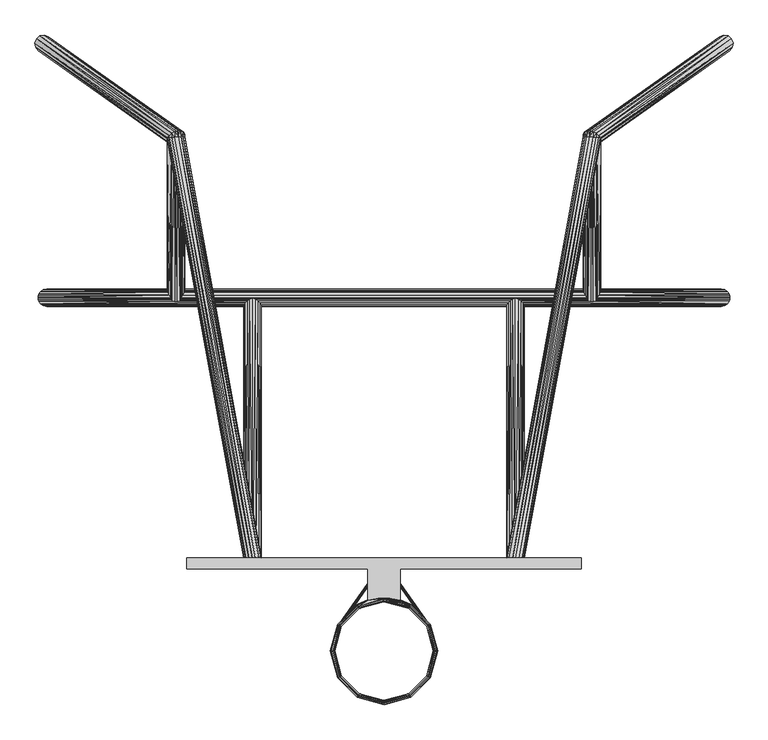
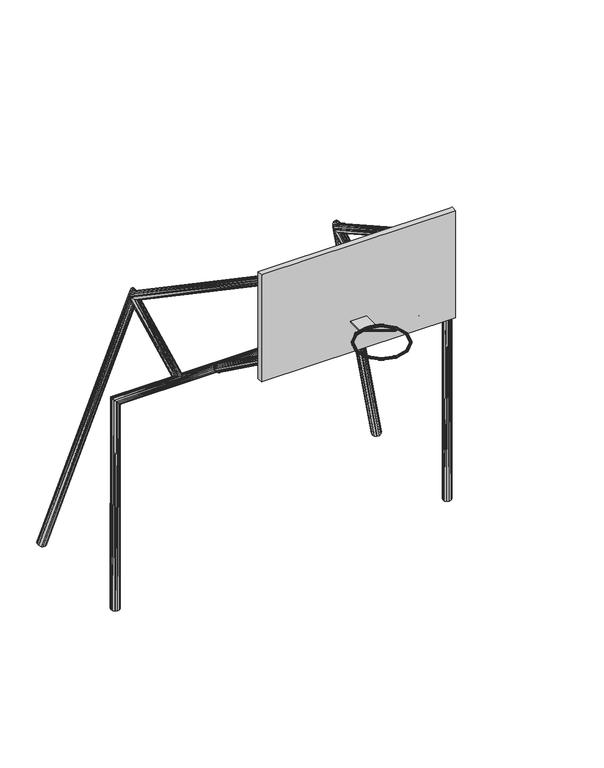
"""IFC4 building model written with IfcOpenShell, lengths in millimetres: furniture geometry, H101 ARCO Y TABLERO : H101 ARCO Y TABLERO."""

from ifc_helpers import new_model, si_unit, origin, place, context, project, spatial, triangles, source, transform, mapped, element, save


def furniture_fd72af2a(model_context):
    return source(origin(), model_context, "Body", "Tessellation", [
        triangles([(-970.47558, -8.92048, 2078.99254), (-1579.2323, -7.80288, 2079.2313), (-1576.95646, -15.30858, 2076.95546), (-968.48168, -16.002, 2076.66082), (-1568.2849, -28.28544, 2068.2839), (-632.63526, -22.43836, 2073.11498), (-931.51706, -16.002, 2076.66082), (-623.78082, -13.37056, 2077.69968), (-929.52316, -8.92048, 2078.99254), (-612.68864, -6.0706, 2079.5361), (-925.9951, -1.76276, 2079.96028), (-599.9988, -3.03022, 2079.88408), (599.9988, -3.03022, 2079.88408), (925.9951, -1.76276, 2079.96028), (612.68864, -6.0706, 2079.5361), (929.52316, -8.92048, 2078.99254), (-974.00364, -1.76276, 2079.96028), (-1579.99938, 0.0, 2080.00092), (-981.837, 11.95324, 2078.17212), (-1579.2323, 7.80288, 2079.2313), (-989.72624, 30.62986, 2065.72612), (-989.8761, 35.08756, 2059.20848), (-1555.30804, 36.95446, 2055.30704), (-1568.2849, 28.28544, 2068.2839), (-988.43338, 38.19398, 2051.8882), (-985.55302, 39.74084, 2044.55014), (-1539.99946, 39.99992, 2040.001), (-964.58532, 35.2425, 2021.08054), (-1511.71656, 28.28544, 2011.71556), (-1524.69342, 36.95446, 2024.69242), (-957.54444, 33.27654, 2017.80394), (-950.00064, 32.41548, 2016.56442), (1511.71656, 28.28544, 2011.71556), (950.00064, 32.41548, 2016.56442), (-942.45684, 33.27654, 2017.80394), (942.45684, 33.27654, 2017.80394), (-935.41342, 35.2425, 2021.08054), (935.41342, 35.2425, 2021.08054), (-923.52622, 38.99916, 2031.11354), (923.52622, 38.99916, 2031.11354), (-914.44572, 39.74084, 2044.55014), (914.44572, 39.74084, 2044.55014), (-911.56536, 38.19398, 2051.8882), (911.56536, 38.19398, 2051.8882), (-910.12518, 35.08756, 2059.20848), (910.12518, 35.08756, 2059.20848), (-910.27504, 30.62986, 2065.72612), (910.27504, 30.62986, 2065.72612), (-911.83714, 25.12568, 2071.12362), (911.83714, 25.12568, 2071.12362), (-918.16174, 11.95324, 2078.17212), (918.16174, 11.95324, 2078.17212), (623.78082, -13.37056, 2077.69968), (931.51706, -16.002, 2076.66082), (632.63526, -22.43836, 2073.11498), (968.48168, -16.002, 2076.66082), (1568.2849, -28.28544, 2068.2839), (1576.95646, -15.30858, 2076.95546), (1579.2323, -7.80288, 2079.2313), (970.47558, -8.92048, 2078.99254), (1579.99938, 0.0, 2080.00092), (974.00364, -1.76276, 2079.96028), (1579.2323, 7.80288, 2079.2313), (981.837, 11.95324, 2078.17212), (957.54444, 33.27654, 2017.80394), (1524.69342, 36.95446, 2024.69242), (1539.99946, 39.99992, 2040.001), (985.55302, 39.74084, 2044.55014), (988.43338, 38.19398, 2051.8882), (1555.30804, 36.95446, 2055.30704), (989.8761, 35.08756, 2059.20848), (989.72624, 30.62986, 2065.72612), (1568.2849, 28.28544, 2068.2839), (571.75146, -32.77362, 2017.06734), (-571.75146, -32.77362, 2017.06734), (-628.24868, -32.77362, 2017.06734), (-1511.71656, -28.28544, 2011.71556), (-566.93054, -38.21938, 2028.19508), (566.93054, -38.21938, 2028.19508), (-1524.69342, -36.95446, 2024.69242), (-633.0696, -38.21938, 2028.19508), (-637.70002, -39.9923, 2040.763), (-1539.99946, -39.99992, 2040.001), (-639.9657, -37.65296, 2053.49602), (-1555.30804, -36.95446, 2055.30704), (-638.32486, -31.1912, 2065.04032), (587.3115, -6.0706, 2079.5361), (-587.3115, -6.0706, 2079.5361), (-576.21932, -13.37056, 2077.69968), (576.21932, -13.37056, 2077.69968), (-567.36488, -22.43836, 2073.11498), (567.36488, -22.43836, 2073.11498), (561.67528, -31.1912, 2065.04032), (-561.67528, -31.1912, 2065.04032), (-560.03444, -37.65296, 2053.49602), (560.03444, -37.65296, 2053.49602), (-562.30012, -39.9923, 2040.763), (562.30012, -39.9923, 2040.763), (628.24868, -32.77362, 2017.06734), (1511.71656, -28.28544, 2011.71556), (637.70002, -39.9923, 2040.763), (1524.69342, -36.95446, 2024.69242), (1539.99946, -39.99992, 2040.001), (633.0696, -38.21938, 2028.19508), (639.9657, -37.65296, 2053.49602), (1555.30804, -36.95446, 2055.30704), (638.32486, -31.1912, 2065.04032), (1503.045, 15.30858, 2003.044), (-1503.045, 15.30858, 2003.044), (1500.76916, 7.80288, 2000.76816), (-1500.76916, 7.80288, 2000.76816), (-1499.99954, 0.0, 2000.00108), (1499.99954, 0.0, 2000.00108), (1500.76916, -7.80288, 2000.76816), (-1500.76916, -7.80288, 2000.76816), (1503.045, -15.30858, 2003.044), (-1503.045, -15.30858, 2003.044), (1559.99942, -34.64052, 0.0), (1539.99946, -39.99992, 0.0), (1519.9995, -34.64052, 0.0), (1574.63998, -19.99996, 0.0), (1579.99938, 0.0, 0.0), (1574.63998, 19.99996, 0.0), (1576.95646, 15.30858, 2076.95546), (1559.99942, 34.64052, 0.0), (1539.99946, 39.99992, 0.0), (1519.9995, 34.64052, 0.0), (1505.35894, 19.99996, 0.0), (1499.99954, 0.0, 0.0), (1505.35894, -19.99996, 0.0), (-1539.99946, -39.99992, 0.0), (-1519.9995, -34.64052, 0.0), (-1559.99942, -34.64052, 0.0), (-1579.99938, 0.0, 0.0), (-1574.63998, -19.99996, 0.0), (-1576.95646, 15.30858, 2076.95546), (-1574.63998, 19.99996, 0.0), (-1559.99942, 34.64052, 0.0), (-1539.99946, 39.99992, 0.0), (-1519.9995, 34.64052, 0.0), (-1505.35894, 19.99996, 0.0), (-1499.99954, 0.0, 0.0), (-1505.35894, -19.99996, 0.0), (-943.6227, -17.81302, 2080.24222), (-956.37604, -17.81302, 2080.24222), (943.6227, -17.81302, 2080.24222), (956.37604, -17.81302, 2080.24222), (-599.9988, -1189.20006, 2939.39722), (-584.69276, -1189.20006, 2935.63802), (-615.30738, -1189.20006, 2935.63802), (-563.04434, -1189.20006, 2908.90452), (-559.99888, -1189.20006, 2889.9993), (-563.04434, -1189.20006, 2871.09662), (-571.7159, -1189.20006, 2855.07176), (-584.69276, -1189.20006, 2844.36312), (-589.66354, -38.83152, 2008.71074), (-615.30738, -1189.20006, 2844.36312), (-628.28424, -1189.20006, 2855.07176), (-610.3366, -38.83152, 2008.71074), (-636.9558, -1189.20006, 2871.09662), (-639.99872, -1189.20006, 2889.9993), (-636.9558, -1189.20006, 2908.90452), (599.9988, -1189.20006, 2939.39722), (615.30738, -1189.20006, 2935.63802), (584.69276, -1189.20006, 2935.63802), (636.9558, -1189.20006, 2908.90452), (639.99872, -1189.20006, 2889.9993), (636.9558, -1189.20006, 2871.09662), (628.28424, -1189.20006, 2855.07176), (615.30738, -1189.20006, 2844.36312), (610.3366, -38.83152, 2008.71074), (584.69276, -1189.20006, 2844.36312), (571.7159, -1189.20006, 2855.07176), (589.66354, -38.83152, 2008.71074), (563.04434, -1189.20006, 2871.09662), (559.99888, -1189.20006, 2889.9993), (563.04434, -1189.20006, 2908.90452), (-928.05758, 659.85644, 2415.99212), (-934.93336, 654.58594, 2417.37388), (-942.3781, 652.23644, 2418.6642), (-917.0162, 678.2562, 2413.17272), (-910.62048, 735.203, 2408.7328), (-911.20976, 736.43998, 2406.28678), (-917.78074, 724.6493, 2384.7044), (-929.13708, 713.9559, 2367.6229), (-943.58968, 705.94728, 2357.57466), (-951.31636, 703.34124, 2355.70268), (-958.99478, 701.81216, 2356.0532), (-966.33538, 701.41338, 2358.61098), (-976.47252, 38.99916, 2031.11354), (-973.06384, 702.16268, 2363.28204), (-983.70898, 706.95058, 2378.19184), (-989.34778, 715.46212, 2398.56518), (-989.14712, 726.43238, 2421.37946), (-972.1215, 672.10178, 2422.04748), (-957.83654, 656.53158, 2420.78764), (-980.97086, 740.92562, 2447.85896), (-969.76946, 732.13468, 2454.01338), (-969.15478, 751.31168, 2464.08956), (-981.19184, 730.5802, 2442.3243), (-955.56324, 733.67392, 2460.21098), (-954.52184, 758.86056, 2473.08878), (-940.57724, 734.98456, 2460.04842), (-946.8104, 761.1999, 2474.4172), (-926.91712, 735.88118, 2453.54602), (-932.03014, 762.5842, 2470.48274), (-939.22088, 762.4572, 2473.53836), (-916.50312, 736.23424, 2441.61818), (-915.40076, 756.34342, 2449.77666), (-925.50742, 761.57582, 2465.36464), (-988.8855, 730.8977, 2424.303), (-1594.1802, 1163.87372, -53.67528), (-989.0379, 729.40418, 2423.34288), (-989.12426, 727.91574, 2422.36752), (-1591.20078, 1143.81788, -57.87644), (-1578.66334, 1128.3696, -63.61176), (-1559.93084, 1121.66654, -69.34962), (-1540.02232, 1125.50702, -73.54824), (-1524.27178, 1138.85726, -75.08494), (-910.38934, 747.53216, 2429.06804), (-1519.88266, 1178.20186, -69.34962), (-1532.41756, 1193.65014, -63.61176), (-1551.15006, 1200.35066, -57.87644), (-1571.05858, 1196.51272, -53.67528), (-1586.80912, 1183.15994, -52.13858), (-1516.9007, 1158.14602, -73.54824), (988.8855, 730.8977, 2424.303), (989.0379, 729.40418, 2423.34288), (1594.1802, 1163.87372, -53.67528), (638.4671, -1189.20006, 3653.96526), (989.12426, 727.91574, 2422.36752), (989.14712, 726.43238, 2421.37946), (989.34778, 715.46212, 2398.56518), (983.70898, 706.95058, 2378.19184), (1591.20078, 1143.81788, -57.87644), (1578.66334, 1128.3696, -63.61176), (958.99478, 701.81216, 2356.0532), (951.31636, 703.34124, 2355.70268), (1540.02232, 1125.50702, -73.54824), (1559.93084, 1121.66654, -69.34962), (943.58968, 705.94728, 2357.57466), (929.13708, 713.9559, 2367.6229), (1524.27178, 1138.85726, -75.08494), (1532.41756, 1193.65014, -63.61176), (910.38934, 747.53216, 2429.06804), (915.40076, 756.34342, 2449.77666), (1519.88266, 1178.20186, -69.34962), (946.8104, 761.1999, 2474.4172), (1571.05858, 1196.51272, -53.67528), (1551.15006, 1200.35066, -57.87644), (939.22088, 762.4572, 2473.53836), (954.52184, 758.86056, 2473.08878), (969.15478, 751.31168, 2464.08956), (1586.80912, 1183.15994, -52.13858), (972.1215, 672.10178, 2422.04748), (957.83654, 656.53158, 2420.78764), (942.3781, 652.23644, 2418.6642), (934.93336, 654.58594, 2417.37388), (976.47252, 38.99916, 2031.11354), (964.58532, 35.2425, 2021.08054), (966.33538, 701.41338, 2358.61098), (973.06384, 702.16268, 2363.28204), (917.78074, 724.6493, 2384.7044), (911.20976, 736.43998, 2406.28678), (910.62048, 735.203, 2408.7328), (917.0162, 678.2562, 2413.17272), (928.05758, 659.85644, 2415.99212), (916.50312, 736.23424, 2441.61818), (926.91712, 735.88118, 2453.54602), (925.50742, 761.57582, 2465.36464), (932.03014, 762.5842, 2470.48274), (940.57724, 734.98456, 2460.04842), (955.56324, 733.67392, 2460.21098), (969.76946, 732.13468, 2454.01338), (981.19184, 730.5802, 2442.3243), (980.97086, 740.92562, 2447.85896), (1516.9007, 1158.14602, -73.54824), (-561.53304, -1189.20006, 3632.0349), (-569.49848, -1189.20006, 3615.1947), (-602.55912, -1189.20006, 3689.86816), (-586.83652, -1189.20006, 3689.18998), (-617.8931, -1189.20006, 3683.41402), (-630.50166, -1189.20006, 3670.80546), (-638.4671, -1189.20006, 3653.96526), (-988.22256, 729.22892, 2426.78966), (-640.57784, -1189.20006, 3635.45374), (-636.50876, -1189.20006, 3618.09284), (-626.8847, -1189.20006, 3604.52162), (-950.10732, 652.89176, 2419.81736), (-613.16362, -1189.20006, 3596.81018), (-597.44102, -1189.20006, 3596.132), (569.49848, -1189.20006, 3615.1947), (561.53304, -1189.20006, 3632.0349), (597.44102, -1189.20006, 3596.132), (613.16362, -1189.20006, 3596.81018), (950.10732, 652.89176, 2419.81736), (626.8847, -1189.20006, 3604.52162), (640.57784, -1189.20006, 3635.45374), (636.50876, -1189.20006, 3618.09284), (988.22256, 729.22892, 2426.78966), (630.50166, -1189.20006, 3670.80546), (617.8931, -1189.20006, 3683.41402), (602.55912, -1189.20006, 3689.86816), (586.83652, -1189.20006, 3689.18998), (-900.00074, -1240.00006, 2749.99958), (-75.00112, -1240.00006, 2879.99932), (-75.00112, -1240.00006, 3056.001), (-900.00074, -1240.00006, 3800.00002), (75.00112, -1240.00006, 3056.001), (900.00074, -1240.00006, 3800.00002), (900.00074, -1240.00006, 2749.99958), (75.00112, -1240.00006, 2879.99932), (-900.00074, -1189.20006, 3800.00002), (900.00074, -1189.20006, 3800.00002), (573.11544, -1189.20006, 3681.47854), (-573.11544, -1189.20006, 3681.47854), (-900.00074, -1189.20006, 2749.99958), (-628.28424, -1189.20006, 2924.92938), (-582.10704, -1189.20006, 3602.58614), (582.10704, -1189.20006, 3602.58614), (559.4223, -1189.20006, 3650.54642), (-559.4223, -1189.20006, 3650.54642), (-563.49138, -1189.20006, 3667.90732), (563.49138, -1189.20006, 3667.90732), (628.28424, -1189.20006, 2924.92938), (900.00074, -1189.20006, 2749.99958), (599.9988, -1189.20006, 2840.60138), (-599.9988, -1189.20006, 2840.60138), (571.7159, -1189.20006, 2924.92938), (-571.7159, -1189.20006, 2924.92938), (202.16114, -1502.31348, 3040.65178), (217.22334, -1539.41018, 3041.34012), (200.44156, -1501.44226, 3041.13438), (199.15886, -1499.95382, 3041.34012), (113.1697, -1418.9837, 3045.00026), (115.00104, -1415.81378, 3041.34012), (196.00418, -1501.80802, 3045.00026), (194.8561, -1502.4989, 3049.99898), (112.49914, -1420.14448, 3049.99898), (0.0, -1388.66118, 3045.00026), (0.0, -1389.99976, 3049.99898), (-112.49914, -1420.14448, 3049.99898), (-113.1697, -1418.9837, 3045.00026), (-196.00418, -1501.80802, 3045.00026), (-194.8561, -1502.4989, 3049.99898), (-226.3394, -1615.00058, 3045.00026), (-225.00082, -1615.00058, 3049.99898), (-229.99954, -1615.00058, 3041.34012), (-199.15886, -1499.95382, 3041.34012), (-199.1868, -1729.99908, 3041.34012), (-196.01688, -1728.17028, 3045.00026), (-203.51496, -1732.50098, 3039.999), (-235.0008, -1615.00058, 3039.999), (-115.00104, -1814.18484, 3041.34012), (-117.5004, -1818.51554, 3039.999), (-119.99976, -1822.84624, 3041.34012), (-207.84566, -1735.00034, 3041.34012), (0.0, -1849.99884, 3039.999), (0.0, -1855.0001, 3041.34012), (0.0, -1858.66024, 3045.00026), (-121.8311, -1826.01616, 3045.00026), (119.99976, -1822.84624, 3041.34012), (121.8311, -1826.01616, 3045.00026), (122.49912, -1827.17694, 3049.99898), (0.0, -1859.99882, 3049.99898), (212.17636, -1737.4997, 3049.99898), (211.01558, -1736.82914, 3045.00026), (211.01558, -1736.82914, 3055.00024), (121.8311, -1826.01616, 3055.00024), (245.00078, -1615.00058, 3049.99898), (243.65966, -1615.00058, 3055.00024), (239.99952, -1615.00058, 3058.66038), (207.84566, -1735.00034, 3058.66038), (211.03336, -1493.19742, 3055.00024), (207.85836, -1495.02114, 3058.66038), (121.8311, -1403.985, 3055.00024), (119.99976, -1407.15492, 3058.66038), (81.77022, -1389.35968, 3058.66038), (75.00112, -1383.86312, 3056.001), (89.70518, -1397.79502, 3059.99896), (117.5004, -1411.48308, 3059.99896), (0.0, -1379.99978, 3059.99896), (0.0, -1375.00106, 3058.66038), (0.0, -1385.00104, 3058.66038), (97.05594, -1406.48182, 3058.66038), (-117.5004, -1411.48308, 3059.99896), (-115.00104, -1415.81378, 3058.66038), (-113.1697, -1418.9837, 3055.00024), (0.0, -1388.66118, 3055.00024), (-196.01942, -1501.83596, 3055.00024), (-199.19188, -1500.0097, 3058.66038), (-226.3394, -1615.00058, 3055.00024), (-194.8561, -1727.49972, 3049.99898), (-113.1697, -1811.01492, 3045.00026), (0.0, -1845.00012, 3041.34012), (117.5004, -1818.51554, 3039.999), (207.84566, -1735.00034, 3041.34012), (243.65966, -1615.00058, 3045.00026), (212.19668, -1492.53448, 3049.99898), (122.49912, -1402.82422, 3049.99898), (239.99952, -1615.00058, 3041.34012), (207.4672, -1500.56596, 3040.1895), (208.33334, -1498.83622, 3040.64416), (235.0008, -1615.00058, 3039.999), (207.87106, -1495.044, 3041.34012), (211.03844, -1493.21012, 3045.00026), (119.99976, -1407.15492, 3041.34012), (121.8311, -1403.985, 3045.00026), (198.69658, -1496.16668, 3040.62384), (198.5518, -1498.08946, 3041.11406), (117.5004, -1411.48308, 3039.999), (199.56526, -1494.43694, 3040.17172), (-202.16368, -1502.31348, 3040.65178), (-200.44156, -1501.44226, 3041.13438), (-204.089, -1502.46588, 3040.1895), (-198.69658, -1496.16922, 3040.62638), (-173.7487, -1464.2973, 3041.34012), (-198.5518, -1498.08946, 3041.11406), (-199.56272, -1494.43948, 3040.17172), (-200.5711, -1492.5421, 3039.999), (-201.05878, -1493.14408, 3040.00154), (-117.5004, -1411.48308, 3039.999), (-202.93584, -1492.53448, 3040.20728), (-119.99976, -1407.15492, 3041.34012), (-207.87106, -1495.044, 3041.34012), (-211.03844, -1493.21012, 3045.00026), (-121.8311, -1403.985, 3045.00026), (-212.19668, -1492.53448, 3049.99898), (-122.49912, -1402.82422, 3049.99898), (-211.03082, -1493.19742, 3055.00024), (-121.8311, -1403.985, 3055.00024), (-207.85836, -1495.02114, 3058.66038), (-119.99976, -1407.15492, 3058.66038), (-203.52512, -1497.51542, 3059.99896), (-239.99952, -1615.00058, 3041.34012), (-243.65966, -1615.00058, 3045.00026), (-245.00078, -1615.00058, 3049.99898), (-243.65966, -1615.00058, 3055.00024), (-239.99952, -1615.00058, 3058.66038), (-235.0008, -1615.00058, 3059.99896), (-229.99954, -1615.00058, 3058.66038), (-208.33334, -1498.83622, 3040.64416), (-207.4672, -1500.56596, 3040.1895), (-75.00112, -1383.86312, 3056.001), (104.44226, -1414.19834, 3055.00024), (113.1697, -1418.9837, 3055.00024), (115.00104, -1415.81378, 3058.66038), (196.01942, -1501.83596, 3055.00024), (199.19188, -1500.0097, 3058.66038), (226.3394, -1615.00058, 3055.00024), (229.99954, -1615.00058, 3058.66038), (199.1868, -1729.99908, 3058.66038), (196.01688, -1728.17028, 3055.00024), (203.51496, -1732.50098, 3059.99896), (235.0008, -1615.00058, 3059.99896), (115.00104, -1814.18484, 3058.66038), (117.5004, -1818.51554, 3059.99896), (119.99976, -1822.84624, 3058.66038), (0.0, -1849.99884, 3059.99896), (0.0, -1855.0001, 3058.66038), (0.0, -1858.66024, 3055.00024), (-119.99976, -1822.84624, 3058.66038), (-121.8311, -1826.01616, 3055.00024), (-122.49912, -1827.17694, 3049.99898), (-212.17636, -1737.4997, 3049.99898), (-211.01558, -1736.82914, 3055.00024), (-211.01558, -1736.82914, 3045.00026), (-112.49914, -1809.85668, 3049.99898), (0.0, -1841.33998, 3045.00026), (115.00104, -1814.18484, 3041.34012), (203.51496, -1732.50098, 3039.999), (0.0, -1839.99886, 3049.99898), (113.1697, -1811.01492, 3045.00026), (199.1868, -1729.99908, 3041.34012), (-196.01688, -1728.17028, 3055.00024), (-113.1697, -1811.01492, 3055.00024), (0.0, -1841.33998, 3055.00024), (112.49914, -1809.85668, 3049.99898), (113.1697, -1811.01492, 3055.00024), (194.8561, -1727.49972, 3049.99898), (225.00082, -1615.00058, 3049.99898), (196.01688, -1728.17028, 3045.00026), (229.99954, -1615.00058, 3041.34012), (226.3394, -1615.00058, 3045.00026), (0.0, -1371.34092, 3045.00026), (0.0, -1375.00106, 3041.34012), (0.0, -1379.99978, 3039.999), (0.0, -1385.00104, 3041.34012), (-115.00104, -1415.81378, 3041.34012), (203.52512, -1497.51542, 3059.99896), (-207.84566, -1735.00034, 3058.66038), (-203.51496, -1732.50098, 3059.99896), (-199.1868, -1729.99908, 3058.66038), (-117.5004, -1818.51554, 3059.99896), (-115.00104, -1814.18484, 3058.66038), (0.0, -1845.00012, 3058.66038), (-25.36952, -1373.3272, 3056.001), (25.36952, -1373.3272, 3056.001), (75.00112, -1382.31118, 3053.18922), (75.00112, -1245.99954, 3049.99898), (75.00112, -1245.99954, 2879.99932), (33.9852, -1245.99954, 2932.90498), (33.52546, -1245.99954, 2930.82472), (33.51784, -1245.99954, 2934.82268), (32.1945, -1245.99954, 2936.28826), (27.87904, -1245.99954, 2937.06296), (30.2133, -1245.99954, 2937.07312), (-75.00112, -1245.99954, 3049.99898), (25.54478, -1245.99954, 2936.25778), (-27.87904, -1245.99954, 2937.06296), (-25.54478, -1245.99954, 2936.25778), (-32.1945, -1245.99954, 2936.28826), (-30.2133, -1245.99954, 2937.07312), (-75.00112, -1245.99954, 2879.99932), (-33.51784, -1245.99954, 2934.82268), (-33.9852, -1245.99954, 2932.90498), (-33.52546, -1245.99954, 2930.82472), (-30.22854, -1245.99954, 2927.42112), (-32.20466, -1245.99954, 2928.8994), (-25.56002, -1245.99954, 2926.60578), (-27.89428, -1245.99954, 2926.61594), (25.56002, -1245.99954, 2926.60578), (23.58136, -1245.99954, 2927.39064), (-23.58136, -1245.99954, 2927.39064), (-22.25548, -1245.99954, 2928.85622), (22.25548, -1245.99954, 2928.85622), (21.78812, -1245.99954, 2930.77392), (-21.78812, -1245.99954, 2930.77392), (22.2504, -1245.99954, 2932.85418), (-22.2504, -1245.99954, 2932.85418), (23.56866, -1245.99954, 2934.7795), (-23.56866, -1245.99954, 2934.7795), (32.20466, -1245.99954, 2928.8994), (30.22854, -1245.99954, 2927.42112), (27.89428, -1245.99954, 2926.61594), (25.3619, -1371.31552, 3049.99898), (75.00112, -1381.76254, 3049.99898), (-25.3619, -1371.31552, 3049.99898), (-75.00112, -1381.76254, 3049.99898), (-75.00112, -1382.31118, 3053.18922), (-198.98614, -1495.38182, 3035.97056), (-198.51878, -1494.71126, 3031.87608), (-200.65238, -1493.40062, 3035.97056), (-200.2155, -1492.77324, 3032.13262), (-202.61834, -1491.84868, 3031.87608), (-203.0857, -1492.51924, 3035.97056), (-201.28738, -1489.94114, 3028.40644), (-198.96582, -1490.98508, 3028.88142), (-203.52512, -1489.9513, 3027.1085), (-205.08722, -1492.1865, 3031.1725), (-198.53402, -1497.92944, 3035.97056), (-197.98538, -1497.14458, 3031.1725), (-199.4154, -1500.36276, 3035.97056), (-198.76008, -1499.42042, 3030.21238), (-201.3966, -1502.029, 3035.97056), (-200.62952, -1500.92918, 3029.25226), (-203.94422, -1502.48112, 3035.97056), (-203.0984, -1501.267, 3028.55122), (-206.37754, -1501.59974, 3035.97056), (-205.50124, -1500.34244, 3028.29468), (-208.04378, -1499.61854, 3035.97056), (-207.19796, -1498.40442, 3028.55122), (-200.6854, -1497.8126, 3022.26726), (-203.00442, -1496.76866, 3021.79228), (-198.44512, -1497.80244, 3023.5652), (-197.07606, -1492.6437, 3018.08388), (-195.17868, -1493.12376, 3019.77806), (-194.08648, -1492.73006, 3022.08946), (-195.11518, -1493.03232, 3019.73234), (-208.49844, -1497.07092, 3035.97056), (-207.73136, -1495.9711, 3029.25226), (-205.54442, -1492.84436, 3023.5652), (-204.78496, -1494.95002, 3022.26726), (-202.27798, -1488.16568, 3019.77806), (-201.17562, -1489.78112, 3018.08388), (-205.08468, -1491.01302, 3025.33812), (-202.2856, -1487.00236, 3022.08946), (-202.25512, -1486.96426, 3022.22662), (-201.549, -1486.68994, 3023.98684), (-207.61452, -1494.6376, 3035.97056), (-206.95666, -1493.69526, 3030.21238), (-206.58836, -1493.55556, 3041.142), (-205.63586, -1492.97136, 3035.97056), (-198.82612, -1487.5002, 3026.45572), (-197.21068, -1488.47302, 3026.79862), (-197.18782, -1492.80372, 3028.40644), (-195.74256, -1489.65412, 3026.45572), (-194.0433, -1491.92996, 3023.98684), (-196.42582, -1494.90938, 3027.1085), (-196.88556, -1496.73818, 3025.33812), (-194.06108, -1492.68942, 3022.22662), (-199.27062, -1491.42196, 3017.46412), (-202.21448, -1488.07424, 3019.73234), (-201.0664, -1489.62618, 3018.00768), (-199.14616, -1491.24162, 3017.37522), (-196.96684, -1492.48876, 3018.00768), (-205.9686, -1501.85628, 3039.999), (-194.63258, -1490.8657, 3025.46766), (-200.34758, -1486.87536, 3025.4702), (203.0857, -1492.51924, 3035.97056), (202.61834, -1491.84868, 3031.87608), (200.2155, -1492.77324, 3032.13262), (200.65238, -1493.40062, 3035.97056), (198.51878, -1494.71126, 3031.87608), (198.98614, -1495.38182, 3035.97056), (198.96582, -1490.98508, 3028.88142), (197.18782, -1492.80372, 3028.40644), (196.42582, -1494.90938, 3027.1085), (197.98538, -1497.14458, 3031.1725), (205.63586, -1492.97136, 3035.97056), (205.08722, -1492.1865, 3031.1725), (207.61452, -1494.6376, 3035.97056), (206.58836, -1493.55556, 3041.142), (206.95666, -1493.69526, 3030.21238), (208.49844, -1497.07092, 3035.97056), (208.04378, -1499.61854, 3035.97056), (207.19796, -1498.40442, 3028.55122), (207.73136, -1495.9711, 3029.25226), (205.50124, -1500.34244, 3028.29468), (206.37754, -1501.59974, 3035.97056), (203.94422, -1502.48112, 3035.97056), (203.0984, -1501.267, 3028.55122), (200.6854, -1497.8126, 3022.26726), (203.00442, -1496.76866, 3021.79228), (199.27062, -1491.42196, 3017.46412), (197.07606, -1492.6437, 3018.08388), (198.44512, -1497.80244, 3023.5652), (195.17868, -1493.12376, 3019.77806), (196.88556, -1496.73818, 3025.33812), (194.08648, -1492.73006, 3022.08946), (194.06108, -1492.68942, 3022.22662), (194.0433, -1491.92996, 3023.98684), (201.3966, -1502.029, 3035.97056), (200.62952, -1500.92918, 3029.25226), (198.76008, -1499.42042, 3030.21238), (199.4154, -1500.36276, 3035.97056), (198.53402, -1497.92944, 3035.97056), (202.25512, -1486.96426, 3022.22662), (205.08468, -1491.01302, 3025.33812), (202.2856, -1487.00236, 3022.08946), (205.54442, -1492.84436, 3023.5652), (202.27798, -1488.16568, 3019.77806), (204.78496, -1494.95002, 3022.26726), (201.17562, -1489.78112, 3018.08388), (201.549, -1486.68994, 3023.98684), (203.52512, -1489.9513, 3027.1085), (201.28738, -1489.94114, 3028.40644), (198.82612, -1487.5002, 3026.45572), (197.21068, -1488.47302, 3026.79862), (195.74256, -1489.65412, 3026.45572), (195.11518, -1493.03232, 3019.73234), (196.96684, -1492.48876, 3018.00768), (199.14616, -1491.24162, 3017.37522), (201.0664, -1489.62618, 3018.00768), (202.21448, -1488.07424, 3019.73234), (205.9686, -1501.85628, 3039.999), (204.089, -1502.46588, 3040.1895), (201.06132, -1493.14408, 3040.00154), (202.94092, -1492.53448, 3040.20728), (194.63258, -1490.8657, 3025.46766), (200.34758, -1486.87536, 3025.4702), (-988.16414, 25.12568, 2071.12362), (988.16414, 25.12568, 2071.12362), (-910.80336, 735.99802, 2425.94638), (910.80336, 735.99802, 2425.94638), (-144.06626, -1440.42892, 3045.00026), (208.48066, -1496.91344, 3041.12168), (204.86624, -1492.68688, 3040.6721), (-204.86624, -1492.68434, 3040.6721), (-208.48066, -1496.9109, 3041.12168), (223.17456, -1577.27904, 3045.00026)], [[1, 2, 3], [1, 3, 4], [4, 3, 5], [6, 4, 5], [6, 7, 4], [6, 8, 7], [9, 8, 10], [7, 8, 9], [11, 10, 12], [9, 10, 11], [12, 13, 11], [14, 11, 13], [13, 15, 14], [14, 15, 16], [2, 1, 17], [2, 17, 18], [18, 17, 19], [18, 19, 20], [21, 22, 23], [21, 23, 24], [25, 26, 27], [25, 27, 23], [28, 29, 30], [29, 28, 31], [29, 32, 33], [34, 33, 32], [32, 35, 34], [36, 34, 35], [37, 38, 35], [36, 35, 38], [39, 40, 37], [38, 37, 40], [39, 41, 42], [40, 39, 42], [42, 41, 43], [42, 43, 44], [44, 43, 45], [44, 45, 46], [45, 47, 48], [46, 45, 48], [47, 49, 50], [48, 47, 50], [50, 49, 51], [50, 51, 52], [51, 11, 14], [52, 51, 14], [15, 53, 16], [16, 53, 54], [54, 53, 55], [55, 56, 54], [56, 57, 58], [57, 56, 55], [58, 59, 60], [56, 58, 60], [59, 61, 62], [60, 59, 62], [61, 63, 64], [62, 61, 64], [34, 65, 33], [66, 33, 65], [67, 68, 69], [70, 67, 69], [70, 71, 72], [73, 70, 72], [74, 75, 76], [77, 74, 76], [75, 74, 78], [74, 79, 78], [80, 81, 82], [83, 80, 82], [83, 82, 84], [85, 83, 84], [85, 84, 86], [5, 85, 86], [87, 13, 88], [12, 88, 13], [88, 89, 87], [90, 87, 89], [91, 92, 89], [90, 89, 92], [92, 91, 93], [91, 94, 93], [94, 95, 96], [93, 94, 96], [95, 97, 98], [96, 95, 98], [97, 78, 79], [98, 97, 79], [99, 74, 100], [77, 100, 74], [101, 102, 103], [104, 102, 101], [105, 103, 106], [101, 103, 105], [107, 106, 57], [105, 106, 107], [33, 108, 109], [29, 33, 109], [108, 110, 111], [109, 108, 111], [112, 111, 110], [113, 112, 110], [113, 114, 115], [112, 113, 115], [114, 116, 117], [115, 114, 117], [77, 117, 116], [100, 77, 116], [106, 103, 118], [118, 103, 119], [103, 102, 119], [119, 102, 120], [58, 121, 122], [58, 122, 59], [122, 123, 124], [63, 122, 124], [125, 126, 67], [125, 67, 70], [126, 127, 66], [126, 66, 67], [128, 129, 110], [108, 128, 110], [114, 129, 130], [114, 130, 116], [80, 131, 132], [80, 83, 131], [133, 83, 85], [131, 83, 133], [3, 2, 134], [135, 3, 134], [134, 20, 136], [134, 136, 137], [23, 27, 138], [138, 27, 139], [27, 30, 139], [139, 30, 140], [141, 109, 111], [141, 111, 142], [115, 117, 143], [142, 115, 143], [118, 119, 120], [118, 120, 127], [127, 120, 130], [127, 130, 129], [127, 126, 125], [127, 125, 118], [125, 122, 121], [118, 125, 121], [132, 131, 133], [132, 133, 138], [138, 133, 135], [138, 135, 134], [138, 139, 140], [138, 140, 132], [140, 142, 143], [132, 140, 143], [144, 145, 7], [4, 7, 145], [146, 54, 147], [56, 147, 54], [88, 12, 148], [149, 88, 148], [148, 12, 10], [148, 10, 150], [94, 151, 152], [94, 152, 95], [95, 152, 153], [95, 153, 97], [75, 154, 155], [75, 155, 156], [157, 158, 76], [159, 157, 76], [82, 160, 84], [160, 161, 84], [161, 162, 86], [84, 161, 86], [15, 13, 163], [164, 15, 163], [163, 13, 87], [163, 87, 165], [107, 166, 167], [107, 167, 105], [105, 167, 168], [105, 168, 101], [99, 169, 170], [99, 170, 171], [172, 173, 74], [174, 172, 74], [98, 175, 96], [175, 176, 96], [176, 177, 93], [96, 176, 93], [7, 9, 178], [11, 178, 9], [7, 179, 180], [7, 180, 144], [11, 51, 178], [181, 178, 51], [181, 49, 47], [181, 47, 182], [45, 43, 183], [182, 45, 183], [43, 41, 184], [184, 183, 43], [185, 37, 186], [37, 35, 186], [35, 32, 187], [186, 35, 187], [187, 32, 31], [187, 31, 188], [188, 31, 28], [188, 28, 189], [189, 28, 190], [189, 190, 191], [192, 26, 25], [25, 193, 192], [193, 22, 21], [194, 193, 21], [4, 195, 1], [17, 1, 195], [4, 145, 196], [4, 196, 195], [197, 198, 199], [197, 200, 198], [199, 201, 202], [199, 198, 201], [202, 201, 203], [202, 203, 204], [203, 205, 206], [207, 203, 206], [205, 208, 209], [210, 205, 209], [211, 212, 213], [212, 214, 213], [212, 215, 194], [214, 212, 194], [215, 216, 192], [192, 193, 215], [188, 217, 218], [188, 218, 187], [186, 218, 219], [186, 219, 185], [220, 221, 222], [209, 220, 222], [223, 224, 204], [207, 223, 204], [202, 224, 199], [224, 225, 199], [223, 221, 218], [223, 222, 221], [226, 219, 221], [218, 221, 219], [223, 218, 217], [223, 217, 224], [224, 216, 215], [224, 217, 216], [212, 225, 215], [224, 215, 225], [227, 228, 229], [227, 230, 228], [229, 228, 231], [228, 230, 231], [229, 231, 232], [231, 230, 232], [233, 234, 235], [235, 234, 236], [237, 238, 239], [240, 237, 239], [241, 242, 243], [239, 241, 243], [244, 245, 246], [247, 245, 244], [248, 249, 250], [251, 248, 250], [249, 252, 253], [249, 253, 254], [56, 60, 255], [62, 255, 60], [255, 256, 56], [56, 256, 147], [257, 258, 54], [146, 257, 54], [72, 233, 232], [72, 71, 233], [69, 68, 234], [69, 234, 233], [259, 260, 261], [262, 259, 261], [260, 65, 237], [261, 260, 237], [65, 34, 238], [237, 65, 238], [238, 34, 36], [238, 36, 241], [241, 36, 38], [241, 38, 242], [263, 42, 44], [264, 263, 44], [264, 44, 46], [264, 46, 265], [48, 266, 265], [48, 50, 266], [52, 267, 266], [267, 52, 14], [267, 16, 54], [14, 16, 267], [246, 268, 269], [246, 269, 270], [271, 269, 272], [271, 272, 251], [272, 273, 252], [248, 272, 252], [252, 273, 253], [273, 274, 253], [274, 275, 276], [253, 274, 276], [250, 249, 240], [250, 240, 244], [244, 239, 243], [244, 240, 239], [249, 254, 229], [240, 249, 229], [236, 240, 235], [229, 235, 240], [243, 277, 244], [247, 244, 277], [278, 279, 181], [278, 181, 182], [203, 201, 280], [281, 203, 280], [201, 198, 282], [280, 201, 282], [198, 200, 283], [282, 198, 283], [283, 200, 284], [200, 285, 284], [284, 285, 213], [285, 211, 213], [284, 214, 194], [284, 213, 214], [194, 195, 286], [286, 195, 287], [288, 196, 289], [288, 289, 290], [180, 179, 291], [290, 180, 291], [266, 292, 293], [265, 266, 293], [294, 258, 257], [294, 257, 295], [296, 256, 297], [295, 296, 297], [298, 255, 232], [299, 255, 298], [230, 300, 275], [230, 275, 301], [301, 275, 274], [301, 274, 302], [302, 274, 273], [302, 273, 303], [303, 273, 272], [303, 272, 304], [305, 306, 307], [305, 307, 308], [308, 307, 309], [308, 309, 310], [310, 309, 311], [309, 312, 311], [311, 312, 305], [306, 305, 312], [281, 280, 313], [282, 313, 280], [314, 304, 313], [281, 313, 304], [304, 315, 281], [316, 281, 315], [313, 283, 284], [313, 282, 283], [313, 286, 287], [284, 286, 313], [313, 287, 288], [313, 288, 317], [290, 148, 150], [290, 150, 288], [288, 150, 318], [288, 318, 317], [318, 162, 317], [317, 162, 161], [148, 290, 291], [148, 291, 149], [149, 291, 319], [149, 319, 165], [165, 292, 320], [165, 319, 292], [165, 320, 294], [165, 294, 163], [292, 319, 279], [292, 279, 293], [293, 279, 278], [293, 278, 321], [321, 278, 322], [321, 322, 323], [323, 316, 324], [321, 323, 324], [163, 294, 295], [163, 295, 164], [164, 295, 297], [325, 164, 297], [297, 314, 326], [325, 297, 326], [166, 325, 326], [326, 167, 166], [326, 169, 168], [167, 326, 168], [327, 170, 326], [169, 326, 170], [317, 328, 326], [327, 326, 328], [317, 157, 328], [317, 158, 157], [317, 161, 160], [158, 317, 160], [298, 314, 299], [297, 299, 314], [298, 230, 314], [230, 301, 314], [314, 301, 302], [314, 302, 303], [165, 329, 149], [330, 149, 329], [330, 329, 177], [330, 177, 151], [151, 177, 176], [151, 176, 152], [152, 176, 175], [152, 175, 153], [153, 175, 173], [153, 173, 154], [173, 172, 154], [155, 154, 172], [172, 327, 155], [328, 155, 327], [308, 310, 314], [308, 314, 313], [305, 326, 311], [305, 317, 326], [313, 317, 305], [313, 305, 308], [310, 311, 326], [310, 326, 314], [159, 75, 156], [76, 75, 159], [331, 332, 333], [334, 333, 332], [334, 335, 336], [334, 337, 335], [337, 338, 339], [335, 337, 339], [335, 339, 340], [339, 341, 340], [340, 342, 343], [340, 341, 342], [344, 345, 346], [345, 347, 346], [344, 346, 348], [344, 348, 349], [348, 346, 350], [346, 351, 350], [350, 352, 353], [348, 350, 353], [352, 350, 354], [352, 354, 355], [352, 355, 356], [352, 356, 357], [356, 358, 359], [356, 355, 358], [356, 359, 360], [356, 360, 361], [360, 359, 362], [360, 362, 363], [360, 363, 364], [360, 364, 365], [364, 363, 366], [363, 367, 366], [366, 368, 369], [364, 366, 369], [368, 370, 371], [368, 366, 370], [368, 371, 372], [368, 372, 373], [372, 374, 375], [372, 371, 374], [375, 376, 377], [375, 374, 376], [377, 376, 378], [379, 378, 376], [378, 380, 377], [377, 380, 381], [378, 382, 380], [378, 383, 382], [380, 382, 384], [385, 380, 384], [384, 386, 387], [384, 382, 386], [384, 387, 388], [384, 388, 389], [388, 387, 390], [387, 391, 390], [388, 390, 345], [388, 345, 342], [345, 390, 347], [390, 392, 347], [346, 393, 351], [346, 347, 393], [350, 351, 354], [351, 394, 354], [355, 395, 358], [355, 354, 395], [359, 358, 362], [358, 396, 362], [363, 362, 397], [363, 397, 367], [366, 367, 370], [367, 398, 370], [371, 399, 374], [371, 370, 399], [374, 400, 376], [374, 399, 400], [401, 402, 403], [404, 402, 401], [405, 406, 398], [401, 405, 398], [401, 367, 397], [401, 398, 367], [407, 408, 406], [405, 407, 406], [406, 399, 370], [398, 406, 370], [409, 410, 411], [412, 409, 411], [411, 410, 336], [336, 410, 334], [353, 413, 414], [353, 415, 413], [353, 414, 348], [414, 349, 348], [416, 417, 418], [349, 418, 417], [417, 419, 420], [419, 421, 420], [422, 420, 423], [420, 421, 423], [424, 425, 426], [424, 426, 427], [427, 426, 428], [427, 428, 429], [429, 428, 430], [429, 430, 431], [431, 430, 432], [431, 432, 433], [433, 432, 434], [433, 434, 386], [386, 434, 391], [386, 391, 387], [425, 435, 436], [425, 436, 426], [426, 436, 437], [426, 437, 428], [428, 437, 438], [428, 438, 430], [430, 438, 439], [430, 439, 432], [432, 439, 440], [432, 440, 434], [434, 440, 441], [434, 441, 391], [391, 441, 392], [391, 392, 390], [442, 443, 435], [435, 443, 353], [408, 400, 399], [408, 399, 406], [444, 433, 386], [383, 444, 386], [341, 389, 342], [389, 388, 342], [445, 446, 447], [445, 447, 385], [447, 448, 449], [447, 446, 448], [449, 450, 451], [449, 448, 450], [451, 450, 452], [450, 453, 452], [452, 454, 455], [451, 452, 455], [454, 452, 456], [454, 456, 457], [454, 457, 458], [454, 458, 373], [458, 459, 460], [458, 457, 459], [458, 460, 461], [458, 461, 369], [461, 462, 463], [461, 460, 462], [461, 463, 464], [461, 464, 365], [464, 463, 465], [463, 466, 465], [465, 467, 361], [464, 465, 361], [467, 437, 436], [467, 465, 437], [467, 436, 435], [467, 435, 357], [393, 468, 394], [351, 393, 394], [394, 469, 395], [354, 394, 395], [395, 470, 396], [358, 395, 396], [396, 471, 397], [362, 396, 397], [394, 468, 469], [468, 472, 469], [395, 469, 473], [395, 473, 470], [470, 474, 471], [396, 470, 471], [397, 471, 404], [397, 404, 401], [347, 392, 393], [392, 475, 393], [393, 476, 468], [393, 475, 476], [468, 477, 472], [468, 476, 477], [472, 477, 478], [477, 479, 478], [478, 479, 480], [479, 453, 480], [480, 450, 481], [480, 453, 450], [481, 448, 338], [481, 450, 448], [469, 478, 473], [469, 472, 478], [470, 482, 474], [470, 473, 482], [471, 474, 404], [474, 483, 404], [473, 478, 480], [473, 480, 482], [474, 482, 484], [474, 484, 483], [482, 480, 484], [480, 481, 484], [446, 338, 448], [446, 339, 338], [424, 485, 486], [424, 427, 485], [486, 485, 407], [485, 408, 407], [422, 486, 487], [422, 424, 486], [487, 486, 411], [486, 407, 411], [487, 488, 422], [488, 489, 422], [488, 340, 343], [488, 343, 489], [488, 411, 336], [488, 487, 411], [340, 488, 335], [488, 336, 335], [451, 490, 449], [451, 455, 490], [455, 372, 375], [490, 455, 375], [490, 377, 381], [490, 375, 377], [372, 455, 373], [455, 454, 373], [368, 373, 369], [373, 458, 369], [364, 461, 365], [364, 369, 461], [360, 464, 361], [360, 365, 464], [356, 361, 357], [361, 467, 357], [352, 357, 353], [357, 435, 353], [449, 381, 447], [449, 490, 381], [381, 380, 385], [447, 381, 385], [437, 465, 466], [437, 466, 438], [466, 491, 439], [438, 466, 439], [491, 492, 440], [439, 491, 440], [440, 492, 493], [440, 493, 441], [493, 475, 392], [441, 493, 392], [463, 462, 491], [466, 463, 491], [462, 494, 492], [491, 462, 492], [492, 494, 495], [492, 495, 493], [495, 476, 475], [493, 495, 475], [462, 460, 459], [462, 459, 494], [494, 459, 496], [494, 496, 495], [496, 477, 476], [495, 496, 476], [457, 456, 496], [459, 457, 496], [496, 456, 479], [496, 479, 477], [453, 479, 456], [453, 456, 452], [444, 497, 307], [497, 498, 307], [307, 498, 309], [498, 379, 309], [379, 499, 500], [500, 309, 379], [501, 312, 500], [309, 500, 312], [502, 503, 501], [504, 502, 501], [500, 504, 501], [504, 500, 505], [500, 506, 507], [505, 500, 507], [506, 508, 509], [506, 500, 508], [509, 510, 511], [509, 508, 510], [508, 512, 513], [510, 508, 513], [514, 515, 508], [512, 508, 515], [514, 516, 515], [514, 517, 516], [514, 518, 519], [517, 514, 519], [520, 521, 514], [518, 514, 521], [520, 501, 522], [520, 514, 501], [522, 523, 520], [520, 523, 524], [525, 524, 526], [523, 526, 524], [525, 526, 527], [525, 527, 528], [528, 527, 529], [528, 529, 530], [530, 529, 531], [530, 531, 532], [531, 509, 532], [511, 532, 509], [501, 533, 534], [501, 503, 533], [501, 535, 522], [534, 535, 501], [501, 514, 306], [501, 306, 312], [536, 508, 500], [537, 536, 500], [508, 538, 539], [508, 536, 538], [540, 444, 508], [539, 540, 508], [307, 508, 444], [508, 307, 306], [541, 542, 543], [542, 544, 543], [544, 545, 546], [543, 544, 546], [545, 544, 547], [544, 548, 547], [547, 549, 550], [545, 547, 550], [542, 541, 551], [542, 551, 552], [552, 551, 553], [552, 553, 554], [554, 553, 555], [554, 555, 556], [555, 557, 558], [556, 555, 558], [558, 557, 559], [558, 559, 560], [561, 562, 560], [561, 560, 559], [558, 560, 563], [560, 564, 563], [558, 563, 556], [563, 565, 556], [563, 566, 567], [565, 563, 567], [565, 567, 568], [567, 569, 568], [570, 571, 562], [561, 570, 562], [562, 571, 572], [562, 572, 573], [573, 572, 574], [573, 574, 575], [574, 572, 576], [574, 576, 577], [577, 576, 578], [577, 578, 516], [576, 549, 579], [578, 576, 579], [570, 580, 571], [570, 425, 580], [571, 581, 572], [581, 576, 572], [580, 582, 583], [580, 583, 581], [581, 550, 576], [550, 549, 576], [583, 546, 545], [583, 545, 550], [584, 547, 548], [584, 548, 585], [548, 586, 587], [585, 548, 587], [588, 589, 590], [588, 590, 591], [591, 568, 528], [591, 590, 568], [575, 592, 564], [575, 564, 573], [573, 560, 562], [573, 564, 560], [592, 563, 564], [592, 566, 563], [548, 542, 586], [548, 544, 542], [586, 542, 552], [586, 552, 589], [552, 554, 590], [589, 552, 590], [554, 556, 565], [590, 554, 565], [577, 593, 574], [577, 517, 593], [574, 593, 575], [593, 594, 575], [575, 594, 592], [594, 595, 592], [592, 596, 566], [592, 595, 596], [566, 596, 569], [596, 524, 569], [597, 559, 557], [597, 557, 415], [349, 553, 418], [553, 551, 418], [421, 543, 546], [421, 546, 423], [584, 585, 513], [585, 510, 513], [510, 585, 587], [510, 587, 511], [511, 587, 598], [532, 511, 598], [532, 598, 588], [532, 588, 530], [530, 588, 591], [530, 591, 528], [528, 568, 569], [528, 569, 525], [520, 596, 521], [596, 595, 521], [595, 594, 518], [521, 595, 518], [578, 579, 515], [516, 578, 515], [515, 579, 599], [515, 599, 512], [512, 599, 584], [512, 584, 513], [600, 601, 602], [600, 602, 603], [603, 604, 605], [603, 602, 604], [602, 606, 607], [604, 602, 607], [607, 608, 609], [604, 607, 609], [601, 600, 610], [601, 610, 611], [611, 610, 612], [610, 613, 612], [614, 612, 615], [612, 405, 615], [615, 616, 617], [618, 615, 617], [617, 616, 619], [616, 620, 619], [620, 621, 622], [619, 620, 622], [619, 623, 624], [619, 622, 623], [624, 623, 625], [623, 626, 625], [623, 627, 628], [626, 623, 628], [628, 627, 629], [628, 629, 630], [630, 629, 631], [630, 631, 527], [631, 629, 632], [629, 608, 632], [622, 621, 633], [622, 633, 634], [622, 634, 623], [634, 627, 623], [634, 633, 635], [633, 636, 635], [634, 635, 627], [635, 629, 627], [636, 637, 609], [635, 636, 609], [609, 608, 629], [635, 609, 629], [637, 605, 604], [609, 637, 604], [638, 639, 640], [638, 640, 502], [639, 641, 642], [640, 639, 642], [642, 641, 643], [642, 643, 644], [644, 643, 624], [644, 624, 625], [638, 645, 639], [638, 504, 645], [639, 611, 614], [639, 646, 611], [647, 601, 611], [646, 647, 611], [647, 648, 606], [648, 649, 606], [606, 649, 650], [606, 650, 607], [601, 647, 602], [647, 606, 602], [643, 617, 619], [624, 643, 619], [614, 618, 641], [639, 614, 641], [643, 641, 617], [641, 618, 617], [630, 651, 628], [630, 526, 651], [651, 652, 626], [628, 651, 626], [652, 653, 625], [626, 652, 625], [625, 654, 644], [625, 653, 654], [644, 654, 655], [654, 533, 655], [642, 655, 640], [655, 503, 640], [621, 620, 656], [657, 621, 656], [600, 603, 658], [659, 600, 658], [410, 637, 636], [410, 636, 334], [652, 522, 535], [652, 535, 653], [653, 535, 534], [653, 534, 654], [631, 632, 529], [527, 631, 529], [529, 632, 531], [632, 660, 531], [660, 650, 509], [660, 509, 531], [650, 649, 506], [509, 650, 506], [506, 649, 507], [649, 648, 507], [648, 661, 505], [507, 648, 505], [661, 645, 504], [505, 661, 504], [174, 74, 171], [99, 171, 74], [20, 19, 136], [136, 19, 662], [136, 662, 24], [24, 662, 21], [23, 22, 25], [27, 26, 190], [27, 190, 30], [30, 190, 28], [29, 31, 32], [66, 65, 260], [66, 260, 259], [66, 259, 67], [67, 259, 68], [70, 69, 71], [73, 72, 663], [73, 663, 124], [124, 663, 64], [124, 64, 63], [77, 76, 80], [80, 76, 81], [5, 86, 6], [99, 100, 102], [99, 102, 104], [107, 57, 55], [106, 118, 57], [57, 118, 121], [57, 121, 58], [59, 122, 61], [61, 122, 63], [124, 123, 73], [73, 123, 125], [73, 125, 70], [66, 127, 33], [33, 127, 128], [33, 128, 108], [110, 129, 113], [113, 129, 114], [116, 130, 100], [100, 130, 120], [100, 120, 102], [133, 85, 5], [133, 5, 135], [135, 5, 3], [134, 2, 18], [134, 18, 20], [137, 136, 24], [137, 24, 138], [138, 24, 23], [140, 30, 29], [140, 29, 141], [141, 29, 109], [142, 111, 112], [142, 112, 115], [143, 117, 77], [143, 77, 132], [132, 77, 80], [127, 129, 128], [122, 125, 123], [138, 134, 137], [142, 140, 141], [88, 149, 89], [89, 149, 330], [89, 330, 91], [91, 330, 151], [91, 151, 94], [97, 153, 78], [78, 153, 154], [78, 154, 75], [156, 155, 328], [156, 328, 159], [159, 328, 157], [76, 158, 81], [81, 158, 160], [81, 160, 82], [86, 162, 6], [6, 162, 318], [6, 318, 8], [8, 318, 150], [8, 150, 10], [15, 164, 53], [53, 164, 325], [53, 325, 55], [55, 325, 166], [55, 166, 107], [101, 168, 104], [104, 168, 169], [104, 169, 99], [171, 170, 327], [171, 327, 174], [174, 327, 172], [74, 173, 79], [79, 173, 175], [79, 175, 98], [93, 177, 92], [92, 177, 329], [92, 329, 90], [90, 329, 165], [90, 165, 87], [7, 178, 179], [144, 180, 289], [181, 51, 49], [182, 47, 45], [184, 41, 39], [184, 39, 185], [185, 39, 37], [191, 190, 192], [192, 190, 26], [193, 25, 22], [194, 21, 662], [662, 19, 194], [194, 19, 195], [195, 19, 17], [196, 145, 289], [289, 145, 144], [285, 200, 197], [204, 203, 207], [206, 205, 210], [209, 208, 664], [209, 664, 220], [220, 664, 182], [220, 182, 183], [285, 197, 211], [211, 197, 212], [194, 215, 193], [192, 216, 191], [191, 216, 217], [191, 217, 189], [189, 217, 188], [187, 218, 186], [185, 219, 184], [184, 219, 226], [184, 226, 183], [183, 226, 221], [183, 221, 220], [209, 222, 210], [210, 222, 223], [210, 223, 206], [206, 223, 207], [204, 224, 202], [199, 225, 197], [197, 225, 212], [300, 227, 276], [276, 227, 229], [276, 229, 254], [229, 232, 235], [235, 232, 233], [236, 234, 262], [236, 262, 240], [240, 262, 261], [240, 261, 237], [239, 238, 241], [243, 242, 263], [243, 263, 277], [277, 263, 264], [277, 264, 247], [247, 264, 245], [244, 246, 270], [244, 270, 250], [250, 270, 271], [250, 271, 251], [249, 248, 252], [254, 253, 276], [147, 256, 296], [147, 296, 146], [146, 296, 257], [255, 62, 64], [255, 64, 232], [232, 64, 663], [232, 663, 72], [233, 71, 69], [234, 68, 259], [234, 259, 262], [242, 38, 40], [242, 40, 263], [263, 40, 42], [265, 46, 48], [266, 50, 52], [267, 54, 258], [264, 265, 245], [245, 265, 665], [245, 665, 246], [246, 665, 268], [270, 269, 271], [251, 272, 248], [276, 275, 300], [664, 322, 182], [182, 322, 278], [322, 664, 323], [323, 664, 208], [323, 208, 316], [316, 208, 205], [316, 205, 281], [281, 205, 203], [284, 194, 286], [287, 195, 288], [288, 195, 196], [290, 289, 180], [291, 179, 178], [291, 178, 319], [319, 178, 181], [319, 181, 279], [265, 293, 321], [292, 266, 320], [320, 266, 267], [320, 267, 294], [294, 267, 258], [295, 257, 296], [297, 256, 255], [297, 255, 299], [298, 232, 230], [230, 227, 300], [304, 272, 269], [304, 269, 315], [315, 269, 268], [315, 268, 324], [324, 268, 665], [324, 665, 321], [321, 665, 265], [324, 316, 315], [314, 303, 304], [402, 404, 656], [656, 404, 332], [656, 332, 657], [657, 332, 331], [334, 332, 337], [343, 342, 666], [666, 342, 345], [666, 345, 344], [376, 400, 499], [376, 499, 379], [401, 403, 667], [667, 405, 401], [613, 407, 405], [613, 668, 407], [407, 668, 659], [407, 659, 411], [411, 659, 658], [411, 658, 412], [443, 597, 353], [353, 597, 415], [344, 349, 417], [416, 419, 417], [417, 420, 422], [422, 423, 424], [424, 423, 669], [424, 669, 582], [582, 425, 424], [670, 435, 425], [670, 442, 435], [538, 485, 539], [539, 485, 427], [539, 427, 429], [538, 536, 485], [485, 536, 537], [485, 537, 408], [408, 537, 400], [537, 499, 400], [378, 379, 498], [378, 498, 383], [383, 498, 497], [383, 497, 444], [540, 431, 444], [444, 431, 433], [383, 386, 382], [431, 540, 429], [429, 540, 539], [341, 339, 445], [445, 339, 446], [404, 483, 332], [483, 484, 671], [483, 671, 332], [332, 671, 337], [671, 484, 481], [337, 671, 338], [338, 671, 481], [422, 489, 417], [417, 489, 666], [417, 666, 344], [489, 343, 666], [384, 389, 385], [385, 389, 445], [389, 341, 445], [500, 499, 537], [508, 306, 514], [549, 547, 599], [549, 599, 579], [571, 580, 581], [581, 583, 550], [587, 586, 598], [598, 586, 589], [598, 589, 588], [568, 590, 565], [547, 584, 599], [566, 569, 567], [443, 559, 597], [415, 557, 413], [413, 557, 555], [413, 555, 414], [414, 555, 553], [414, 553, 349], [418, 551, 416], [416, 551, 541], [416, 541, 419], [419, 541, 543], [419, 543, 421], [423, 546, 669], [669, 546, 583], [669, 583, 582], [582, 580, 425], [425, 570, 670], [670, 570, 442], [442, 570, 561], [442, 561, 443], [443, 561, 559], [525, 569, 524], [524, 596, 520], [518, 594, 519], [519, 594, 593], [519, 593, 517], [517, 577, 516], [608, 607, 660], [608, 660, 632], [611, 612, 614], [614, 615, 618], [639, 645, 646], [645, 661, 646], [646, 661, 647], [661, 648, 647], [607, 650, 660], [644, 655, 642], [656, 620, 402], [402, 620, 616], [402, 616, 403], [403, 616, 615], [403, 615, 667], [667, 615, 405], [405, 612, 613], [613, 610, 668], [668, 610, 600], [668, 600, 659], [658, 603, 412], [412, 603, 605], [412, 605, 409], [409, 605, 637], [409, 637, 410], [334, 636, 333], [333, 636, 633], [333, 633, 331], [331, 633, 621], [331, 621, 657], [630, 527, 526], [651, 526, 523], [651, 523, 652], [652, 523, 522], [504, 638, 502], [502, 640, 503], [503, 655, 533], [533, 654, 534]]),
    ])


if __name__ == "__main__":
    model = new_model("IFC4")
    model_context = context("Model", 3, world=origin())
    ifc_project = project(units=[si_unit("LENGTHUNIT", "METRE", prefix="MILLI")], contexts=[model_context])
    site = spatial("IfcSite", under=ifc_project)
    building = spatial("IfcBuilding", under=site)
    placement = place(None, origin())
    furniture_shape = furniture_fd72af2a(model_context)
    element("IfcFurniture", 1, ObjectType="H101 ARCO Y TABLERO : H101 ARCO Y TABLERO", at=placement, inside=building, context=model_context, shape_type="MappedRepresentation", body=[
        mapped(furniture_shape, transform((0.0, 0.0, 0.0), x_axis=(1.0, 0.0, 0.0), y_axis=(0.0, 1.0, 0.0), z_axis=(0.0, 0.0, 1.0))),
    ])
    save(model, "model.ifc")
